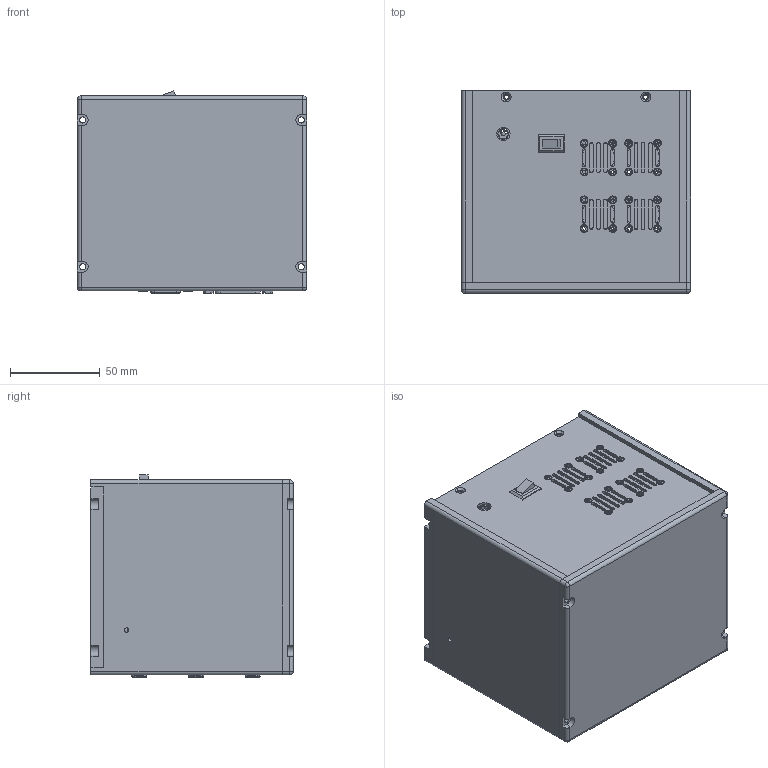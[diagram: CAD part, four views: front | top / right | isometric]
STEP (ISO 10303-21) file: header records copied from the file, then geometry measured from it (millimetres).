
FILE_DESCRIPTION (( 'STEP AP203' ), '1' );
FILE_NAME ('E53.D3E-J.STEP', '2025-07-18T00:14:29', ( 'China' ), ( 'Home' ), 'SwSTEP 2.0', 'SolidWorks 2016', '' );
FILE_SCHEMA (( 'CONFIG_CONTROL_DESIGN' ));
Length unit declared in the file: millimetre
Products named in the file (1): E53.D3E-J
Bounding box: 128 x 113 x 112.97 mm (x, y, z)
Surface area: 167047.2 mm2 (no closed solid volume)
Topology: 0 solids, 89 shells, 1429 faces, 6155 edges, 4818 vertices
Faces by surface type: cylinder 607, plane 568, cone 220, bspline 29, sphere 5
Entity records: 65770 total; most frequent: CARTESIAN_POINT 14333, DIRECTION 11072, ORIENTED_EDGE 8797, EDGE_CURVE 6146, VERTEX_POINT 4816, AXIS2_PLACEMENT_3D 3809, LINE 3454, VECTOR 3454
